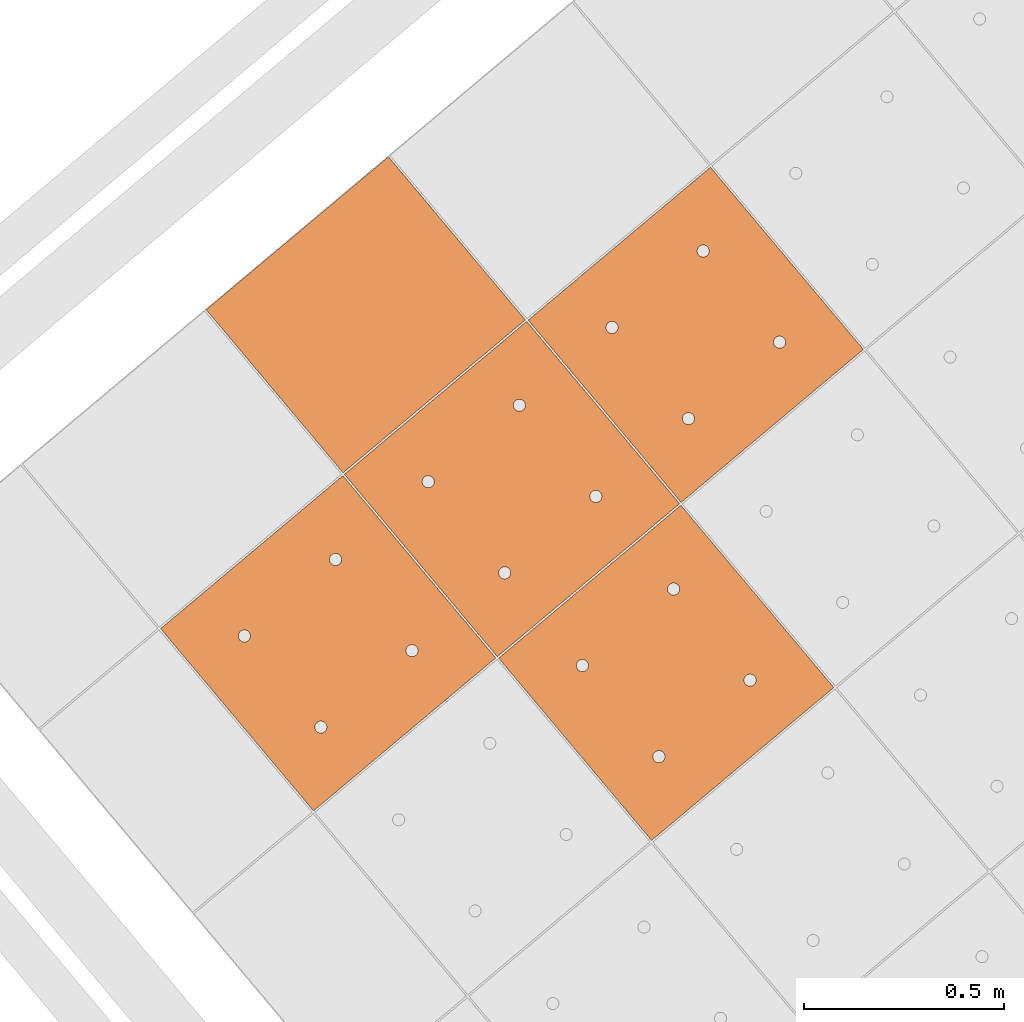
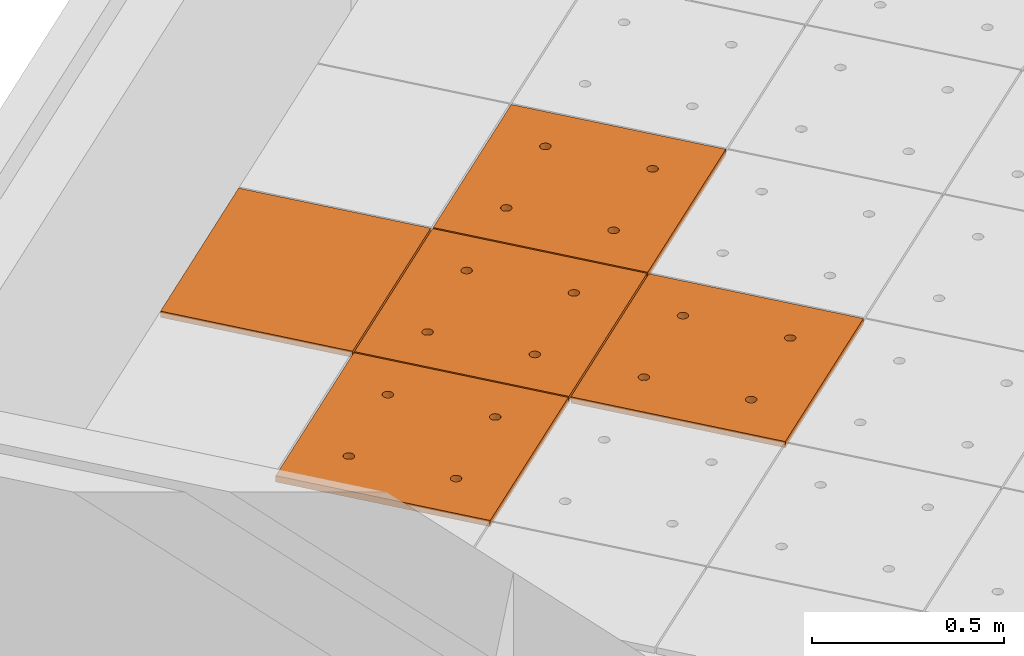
# One storey, part 152 of 338: 5 proxies, 1 element without a shape of its own.
"""IFC2X3 building model written with IfcOpenShell, lengths in millimetres."""

from ifc_helpers import new_model, entity, si_unit, converted_unit, derived_unit, money_unit, direction, frame, origin_with_axes, place, context, subcontext, project, spatial, faceted_brep, source, transform, mapped, material, type_object, type_shapes, element, aggregate, save


model = new_model("IFC2X3")

# Units and contexts
model_context = context("Model", 3, precision=0.01, world=origin_with_axes(), true_north=direction((0.0, 1.0)))
plan_context = context("Plan", 3, precision=0.01, world=origin_with_axes(), true_north=direction((0.0, 1.0)))
body_context = subcontext(model_context, "Body", "Model", "MODEL_VIEW")
ifc_project = project(units=[si_unit("LENGTHUNIT", "METRE", prefix="MILLI"), si_unit("AREAUNIT", "SQUARE_METRE"), si_unit("VOLUMEUNIT", "CUBIC_METRE"), converted_unit("PLANEANGLEUNIT", "DEGREE", entity("IfcPlaneAngleMeasure", 0.0174532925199), si_unit("PLANEANGLEUNIT", "RADIAN"), dimensions=[0, 0, 0, 0, 0, 0, 0]), money_unit("EUR"), converted_unit("TIMEUNIT", "Year", entity("IfcTimeMeasure", 31556926.0), si_unit("TIMEUNIT", "SECOND"), dimensions=[0, 0, 1, 0, 0, 0, 0]), si_unit("MASSUNIT", "GRAM", prefix="KILO"), si_unit("THERMODYNAMICTEMPERATUREUNIT", "DEGREE_CELSIUS"), si_unit("LUMINOUSINTENSITYUNIT", "LUMEN"), si_unit("ENERGYUNIT", "JOULE", prefix="MEGA"), derived_unit("THERMALCONDUCTANCEUNIT", [(si_unit("POWERUNIT", "WATT"), 1), (si_unit("LENGTHUNIT", "METRE"), -1), (si_unit("THERMODYNAMICTEMPERATUREUNIT", "KELVIN"), -1)]), derived_unit("SPECIFICHEATCAPACITYUNIT", [(si_unit("ENERGYUNIT", "JOULE"), 1), (si_unit("MASSUNIT", "GRAM", prefix="KILO"), -1), (si_unit("THERMODYNAMICTEMPERATUREUNIT", "KELVIN"), -1)]), derived_unit("MASSDENSITYUNIT", [(si_unit("MASSUNIT", "GRAM", prefix="KILO"), 1), (si_unit("VOLUMEUNIT", "CUBIC_METRE"), -1)])], contexts=[model_context, plan_context])

# Site, building, storey
site_placement = place(None, origin_with_axes())
site = spatial("IfcSite", under=ifc_project, at=site_placement, Name="Fortuinstraat Woensdrecht", CompositionType="ELEMENT")
building_placement = place(site_placement, origin_with_axes())
building = spatial("IfcBuilding", under=site, at=building_placement, Name="IKC Fortuna", CompositionType="ELEMENT")
storey_placement = place(building_placement, origin_with_axes())
storey = spatial("IfcBuildingStorey", under=building, at=storey_placement, Name="00 begane grond", CompositionType="ELEMENT", Elevation=0.0)

# Covering, proxies
covering_type = type_object("IfcCoveringType", Name="Curtain Wall Type", PredefinedType="CEILING")
covering_placement = place(storey_placement, frame((9775.85169731, -1002.28242867, 4660.0), z_axis=(0.0, 0.0, 1.0), x_axis=(1.0, 0.0, 0.0)))
covering = element("IfcCovering", 1, at=covering_placement, inside=storey, type_object=covering_type, Name="45_Plafondafwerking_P01", PredefinedType="CEILING")
ifc_material = material(Name="Gipsplaat")
building_element_proxy_type_1 = type_object("IfcBuildingElementProxyType", Name="Main Panel 600 x 600 x 20", PredefinedType="NOTDEFINED")
shared_shape_1 = source(origin_with_axes(), body_context, "Body", "Brep", [
    faceted_brep([(2.49999999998, 2.49999999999, -10.0), (300.0, 2.49999999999, -10.0), (300.0, 2.49999999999, 10.0), (2.49999999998, 2.49999999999, 10.0), (2.49999999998, 300.0, -10.0), (2.49999999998, 597.5, -10.0), (300.0, 597.5, -10.0), (597.5, 597.5, -10.0), (597.5, 300.0, -10.0), (597.5, 2.49999999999, -10.0), (166.25, 450.06232995, -10.0), (165.79423259, 452.64711538, -10.0), (164.896546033, 455.11348892, -10.0), (163.58421608, 457.38651108, -10.0), (161.897117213, 459.39711721, -10.0), (159.886511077, 461.08421608, -10.0), (157.613488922, 462.39654603, -10.0), (155.147115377, 463.29423259, -10.0), (152.562329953, 463.75, -10.0), (149.937670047, 463.75, -10.0), (147.352884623, 463.29423259, -10.0), (144.886511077, 462.39654603, -10.0), (142.613488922, 461.08421608, -10.0), (140.602882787, 459.39711721, -10.0), (138.91578392, 457.38651108, -10.0), (137.603453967, 455.11348892, -10.0), (136.705767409, 452.64711538, -10.0), (136.25, 450.06232995, -10.0), (136.25, 448.75, -10.0), (136.25, 447.43767005, -10.0), (136.705767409, 444.85288462, -10.0), (137.603453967, 442.38651108, -10.0), (138.91578392, 440.11348892, -10.0), (140.602882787, 438.10288279, -10.0), (142.613488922, 436.41578392, -10.0), (144.886511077, 435.10345397, -10.0), (147.352884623, 434.20576741, -10.0), (149.937670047, 433.75, -10.0), (152.562329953, 433.75, -10.0), (155.147115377, 434.20576741, -10.0), (157.613488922, 435.10345397, -10.0), (159.886511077, 436.41578392, -10.0), (161.897117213, 438.10288279, -10.0), (163.58421608, 440.11348892, -10.0), (164.896546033, 442.38651108, -10.0), (165.79423259, 444.85288462, -10.0), (166.25, 447.43767005, -10.0), (463.75, 450.06232995, -10.0), (463.29423259, 452.64711538, -10.0), (462.396546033, 455.11348892, -10.0), (461.08421608, 457.38651108, -10.0), (459.397117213, 459.39711721, -10.0), (457.386511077, 461.08421608, -10.0), (455.113488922, 462.39654603, -10.0), (452.647115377, 463.29423259, -10.0), (450.062329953, 463.75, -10.0), (447.437670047, 463.75, -10.0), (444.852884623, 463.29423259, -10.0), (442.386511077, 462.39654603, -10.0), (440.113488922, 461.08421608, -10.0), (438.102882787, 459.39711721, -10.0), (436.41578392, 457.38651108, -10.0), (435.103453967, 455.11348892, -10.0), (434.205767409, 452.64711538, -10.0), (433.75, 450.06232995, -10.0), (433.75, 448.75, -10.0), (433.75, 447.43767005, -10.0), (434.205767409, 444.85288462, -10.0), (435.103453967, 442.38651108, -10.0), (436.41578392, 440.11348892, -10.0), (438.102882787, 438.10288279, -10.0), (440.113488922, 436.41578392, -10.0), (442.386511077, 435.10345397, -10.0), (444.852884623, 434.20576741, -10.0), (447.437670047, 433.75, -10.0), (450.062329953, 433.75, -10.0), (452.647115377, 434.20576741, -10.0), (455.113488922, 435.10345397, -10.0), (457.386511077, 436.41578392, -10.0), (459.397117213, 438.10288279, -10.0), (461.08421608, 440.11348892, -10.0), (462.396546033, 442.38651108, -10.0), (463.29423259, 444.85288462, -10.0), (463.75, 447.43767005, -10.0), (463.75, 152.56232995, -10.0), (463.29423259, 155.14711538, -10.0), (462.396546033, 157.61348892, -10.0), (461.08421608, 159.88651108, -10.0), (459.397117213, 161.89711721, -10.0), (457.386511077, 163.58421608, -10.0), (455.113488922, 164.89654603, -10.0), (452.647115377, 165.79423259, -10.0), (450.062329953, 166.25, -10.0), (447.437670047, 166.25, -10.0), (444.852884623, 165.79423259, -10.0), (442.386511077, 164.89654603, -10.0), (440.113488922, 163.58421608, -10.0), (438.102882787, 161.89711721, -10.0), (436.41578392, 159.88651108, -10.0), (435.103453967, 157.61348892, -10.0), (434.205767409, 155.14711538, -10.0), (433.75, 152.56232995, -10.0), (433.75, 151.25, -10.0), (433.75, 149.93767005, -10.0), (434.205767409, 147.35288462, -10.0), (435.103453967, 144.88651108, -10.0), (436.41578392, 142.61348892, -10.0), (438.102882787, 140.60288279, -10.0), (440.113488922, 138.91578392, -10.0), (442.386511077, 137.60345397, -10.0), (444.852884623, 136.70576741, -10.0), (447.437670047, 136.25, -10.0), (450.062329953, 136.25, -10.0), (452.647115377, 136.70576741, -10.0), (455.113488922, 137.60345397, -10.0), (457.386511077, 138.91578392, -10.0), (459.397117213, 140.60288279, -10.0), (461.08421608, 142.61348892, -10.0), (462.396546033, 144.88651108, -10.0), (463.29423259, 147.35288462, -10.0), (463.75, 149.93767005, -10.0), (166.25, 152.56232995, -10.0), (165.79423259, 155.14711538, -10.0), (164.896546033, 157.61348892, -10.0), (163.58421608, 159.88651108, -10.0), (161.897117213, 161.89711721, -10.0), (159.886511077, 163.58421608, -10.0), (157.613488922, 164.89654603, -10.0), (155.147115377, 165.79423259, -10.0), (152.562329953, 166.25, -10.0), (149.937670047, 166.25, -10.0), (147.352884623, 165.79423259, -10.0), (144.886511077, 164.89654603, -10.0), (142.613488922, 163.58421608, -10.0), (140.602882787, 161.89711721, -10.0), (138.91578392, 159.88651108, -10.0), (137.603453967, 157.61348892, -10.0), (136.705767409, 155.14711538, -10.0), (136.25, 152.56232995, -10.0), (136.25, 151.25, -10.0), (136.25, 149.93767005, -10.0), (136.705767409, 147.35288462, -10.0), (137.603453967, 144.88651108, -10.0), (138.91578392, 142.61348892, -10.0), (140.602882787, 140.60288279, -10.0), (142.613488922, 138.91578392, -10.0), (144.886511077, 137.60345397, -10.0), (147.352884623, 136.70576741, -10.0), (149.937670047, 136.25, -10.0), (152.562329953, 136.25, -10.0), (155.147115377, 136.70576741, -10.0), (157.613488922, 137.60345397, -10.0), (159.886511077, 138.91578392, -10.0), (161.897117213, 140.60288279, -10.0), (163.58421608, 142.61348892, -10.0), (164.896546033, 144.88651108, -10.0), (165.79423259, 147.35288462, -10.0), (166.25, 149.93767005, -10.0), (597.5, 2.49999999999, 10.0), (597.5, 300.0, 10.0), (597.5, 597.5, 10.0), (300.0, 597.5, 10.0), (2.49999999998, 597.5, 10.0), (2.49999999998, 300.0, 10.0), (166.25, 450.06232995, 10.0), (166.25, 447.43767005, 10.0), (165.79423259, 444.85288462, 10.0), (164.896546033, 442.38651108, 10.0), (163.58421608, 440.11348892, 10.0), (161.897117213, 438.10288279, 10.0), (159.886511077, 436.41578392, 10.0), (157.613488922, 435.10345397, 10.0), (155.147115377, 434.20576741, 10.0), (152.562329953, 433.75, 10.0), (149.937670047, 433.75, 10.0), (147.352884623, 434.20576741, 10.0), (144.886511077, 435.10345397, 10.0), (142.613488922, 436.41578392, 10.0), (140.602882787, 438.10288279, 10.0), (138.91578392, 440.11348892, 10.0), (137.603453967, 442.38651108, 10.0), (136.705767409, 444.85288462, 10.0), (136.25, 447.43767005, 10.0), (136.25, 448.75, 10.0), (136.25, 450.06232995, 10.0), (136.705767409, 452.64711538, 10.0), (137.603453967, 455.11348892, 10.0), (138.91578392, 457.38651108, 10.0), (140.602882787, 459.39711721, 10.0), (142.613488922, 461.08421608, 10.0), (144.886511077, 462.39654603, 10.0), (147.352884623, 463.29423259, 10.0), (149.937670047, 463.75, 10.0), (152.562329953, 463.75, 10.0), (155.147115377, 463.29423259, 10.0), (157.613488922, 462.39654603, 10.0), (159.886511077, 461.08421608, 10.0), (161.897117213, 459.39711721, 10.0), (163.58421608, 457.38651108, 10.0), (164.896546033, 455.11348892, 10.0), (165.79423259, 452.64711538, 10.0), (463.75, 450.06232995, 10.0), (463.75, 447.43767005, 10.0), (463.29423259, 444.85288462, 10.0), (462.396546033, 442.38651108, 10.0), (461.08421608, 440.11348892, 10.0), (459.397117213, 438.10288279, 10.0), (457.386511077, 436.41578392, 10.0), (455.113488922, 435.10345397, 10.0), (452.647115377, 434.20576741, 10.0), (450.062329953, 433.75, 10.0), (447.437670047, 433.75, 10.0), (444.852884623, 434.20576741, 10.0), (442.386511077, 435.10345397, 10.0), (440.113488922, 436.41578392, 10.0), (438.102882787, 438.10288279, 10.0), (436.41578392, 440.11348892, 10.0), (435.103453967, 442.38651108, 10.0), (434.205767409, 444.85288462, 10.0), (433.75, 447.43767005, 10.0), (433.75, 448.75, 10.0), (433.75, 450.06232995, 10.0), (434.205767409, 452.64711538, 10.0), (435.103453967, 455.11348892, 10.0), (436.41578392, 457.38651108, 10.0), (438.102882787, 459.39711721, 10.0), (440.113488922, 461.08421608, 10.0), (442.386511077, 462.39654603, 10.0), (444.852884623, 463.29423259, 10.0), (447.437670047, 463.75, 10.0), (450.062329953, 463.75, 10.0), (452.647115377, 463.29423259, 10.0), (455.113488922, 462.39654603, 10.0), (457.386511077, 461.08421608, 10.0), (459.397117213, 459.39711721, 10.0), (461.08421608, 457.38651108, 10.0), (462.396546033, 455.11348892, 10.0), (463.29423259, 452.64711538, 10.0), (463.75, 152.56232995, 10.0), (463.75, 149.93767005, 10.0), (463.29423259, 147.35288462, 10.0), (462.396546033, 144.88651108, 10.0), (461.08421608, 142.61348892, 10.0), (459.397117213, 140.60288279, 10.0), (457.386511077, 138.91578392, 10.0), (455.113488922, 137.60345397, 10.0), (452.647115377, 136.70576741, 10.0), (450.062329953, 136.25, 10.0), (447.437670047, 136.25, 10.0), (444.852884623, 136.70576741, 10.0), (442.386511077, 137.60345397, 10.0), (440.113488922, 138.91578392, 10.0), (438.102882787, 140.60288279, 10.0), (436.41578392, 142.61348892, 10.0), (435.103453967, 144.88651108, 10.0), (434.205767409, 147.35288462, 10.0), (433.75, 149.93767005, 10.0), (433.75, 151.25, 10.0), (433.75, 152.56232995, 10.0), (434.205767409, 155.14711538, 10.0), (435.103453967, 157.61348892, 10.0), (436.41578392, 159.88651108, 10.0), (438.102882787, 161.89711721, 10.0), (440.113488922, 163.58421608, 10.0), (442.386511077, 164.89654603, 10.0), (444.852884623, 165.79423259, 10.0), (447.437670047, 166.25, 10.0), (450.062329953, 166.25, 10.0), (452.647115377, 165.79423259, 10.0), (455.113488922, 164.89654603, 10.0), (457.386511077, 163.58421608, 10.0), (459.397117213, 161.89711721, 10.0), (461.08421608, 159.88651108, 10.0), (462.396546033, 157.61348892, 10.0), (463.29423259, 155.14711538, 10.0), (166.25, 152.56232995, 10.0), (166.25, 149.93767005, 10.0), (165.79423259, 147.35288462, 10.0), (164.896546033, 144.88651108, 10.0), (163.58421608, 142.61348892, 10.0), (161.897117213, 140.60288279, 10.0), (159.886511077, 138.91578392, 10.0), (157.613488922, 137.60345397, 10.0), (155.147115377, 136.70576741, 10.0), (152.562329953, 136.25, 10.0), (149.937670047, 136.25, 10.0), (147.352884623, 136.70576741, 10.0), (144.886511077, 137.60345397, 10.0), (142.613488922, 138.91578392, 10.0), (140.602882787, 140.60288279, 10.0), (138.91578392, 142.61348892, 10.0), (137.603453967, 144.88651108, 10.0), (136.705767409, 147.35288462, 10.0), (136.25, 149.93767005, 10.0), (136.25, 151.25, 10.0), (136.25, 152.56232995, 10.0), (136.705767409, 155.14711538, 10.0), (137.603453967, 157.61348892, 10.0), (138.91578392, 159.88651108, 10.0), (140.602882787, 161.89711721, 10.0), (142.613488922, 163.58421608, 10.0), (144.886511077, 164.89654603, 10.0), (147.352884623, 165.79423259, 10.0), (149.937670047, 166.25, 10.0), (152.562329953, 166.25, 10.0), (155.147115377, 165.79423259, 10.0), (157.613488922, 164.89654603, 10.0), (159.886511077, 163.58421608, 10.0), (161.897117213, 161.89711721, 10.0), (163.58421608, 159.88651108, 10.0), (164.896546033, 157.61348892, 10.0), (165.79423259, 155.14711538, 10.0)], [[[0, 1, 2, 3]], [[0, 4, 5, 6, 7, 8, 9, 1], [10, 11, 12, 13, 14, 15, 16, 17, 18, 19, 20, 21, 22, 23, 24, 25, 26, 27, 28, 29, 30, 31, 32, 33, 34, 35, 36, 37, 38, 39, 40, 41, 42, 43, 44, 45, 46], [47, 48, 49, 50, 51, 52, 53, 54, 55, 56, 57, 58, 59, 60, 61, 62, 63, 64, 65, 66, 67, 68, 69, 70, 71, 72, 73, 74, 75, 76, 77, 78, 79, 80, 81, 82, 83], [84, 85, 86, 87, 88, 89, 90, 91, 92, 93, 94, 95, 96, 97, 98, 99, 100, 101, 102, 103, 104, 105, 106, 107, 108, 109, 110, 111, 112, 113, 114, 115, 116, 117, 118, 119, 120], [121, 122, 123, 124, 125, 126, 127, 128, 129, 130, 131, 132, 133, 134, 135, 136, 137, 138, 139, 140, 141, 142, 143, 144, 145, 146, 147, 148, 149, 150, 151, 152, 153, 154, 155, 156, 157]], [[1, 9, 158, 2]], [[3, 2, 158, 159, 160, 161, 162, 163], [164, 165, 166, 167, 168, 169, 170, 171, 172, 173, 174, 175, 176, 177, 178, 179, 180, 181, 182, 183, 184, 185, 186, 187, 188, 189, 190, 191, 192, 193, 194, 195, 196, 197, 198, 199, 200], [201, 202, 203, 204, 205, 206, 207, 208, 209, 210, 211, 212, 213, 214, 215, 216, 217, 218, 219, 220, 221, 222, 223, 224, 225, 226, 227, 228, 229, 230, 231, 232, 233, 234, 235, 236, 237], [238, 239, 240, 241, 242, 243, 244, 245, 246, 247, 248, 249, 250, 251, 252, 253, 254, 255, 256, 257, 258, 259, 260, 261, 262, 263, 264, 265, 266, 267, 268, 269, 270, 271, 272, 273, 274], [275, 276, 277, 278, 279, 280, 281, 282, 283, 284, 285, 286, 287, 288, 289, 290, 291, 292, 293, 294, 295, 296, 297, 298, 299, 300, 301, 302, 303, 304, 305, 306, 307, 308, 309, 310, 311]], [[4, 0, 3, 163]], [[5, 4, 163, 162]], [[6, 5, 162, 161]], [[7, 6, 161, 160]], [[8, 7, 160, 159]], [[9, 8, 159, 158]], [[11, 10, 164, 200]], [[12, 11, 200, 199]], [[13, 12, 199, 198]], [[14, 13, 198, 197]], [[15, 14, 197, 196]], [[16, 15, 196, 195]], [[17, 16, 195, 194]], [[18, 17, 194, 193]], [[19, 18, 193, 192]], [[20, 19, 192, 191]], [[21, 20, 191, 190]], [[22, 21, 190, 189]], [[23, 22, 189, 188]], [[24, 23, 188, 187]], [[25, 24, 187, 186]], [[26, 25, 186, 185]], [[27, 26, 185, 184]], [[28, 27, 184, 183]], [[29, 28, 183, 182]], [[30, 29, 182, 181]], [[31, 30, 181, 180]], [[32, 31, 180, 179]], [[33, 32, 179, 178]], [[34, 33, 178, 177]], [[35, 34, 177, 176]], [[36, 35, 176, 175]], [[37, 36, 175, 174]], [[38, 37, 174, 173]], [[39, 38, 173, 172]], [[40, 39, 172, 171]], [[41, 40, 171, 170]], [[42, 41, 170, 169]], [[43, 42, 169, 168]], [[44, 43, 168, 167]], [[45, 44, 167, 166]], [[46, 45, 166, 165]], [[10, 46, 165, 164]], [[48, 47, 201, 237]], [[49, 48, 237, 236]], [[50, 49, 236, 235]], [[51, 50, 235, 234]], [[52, 51, 234, 233]], [[53, 52, 233, 232]], [[54, 53, 232, 231]], [[55, 54, 231, 230]], [[56, 55, 230, 229]], [[57, 56, 229, 228]], [[58, 57, 228, 227]], [[59, 58, 227, 226]], [[60, 59, 226, 225]], [[61, 60, 225, 224]], [[62, 61, 224, 223]], [[63, 62, 223, 222]], [[64, 63, 222, 221]], [[65, 64, 221, 220]], [[66, 65, 220, 219]], [[67, 66, 219, 218]], [[68, 67, 218, 217]], [[69, 68, 217, 216]], [[70, 69, 216, 215]], [[71, 70, 215, 214]], [[72, 71, 214, 213]], [[73, 72, 213, 212]], [[74, 73, 212, 211]], [[75, 74, 211, 210]], [[76, 75, 210, 209]], [[77, 76, 209, 208]], [[78, 77, 208, 207]], [[79, 78, 207, 206]], [[80, 79, 206, 205]], [[81, 80, 205, 204]], [[82, 81, 204, 203]], [[83, 82, 203, 202]], [[47, 83, 202, 201]], [[85, 84, 238, 274]], [[86, 85, 274, 273]], [[87, 86, 273, 272]], [[88, 87, 272, 271]], [[89, 88, 271, 270]], [[90, 89, 270, 269]], [[91, 90, 269, 268]], [[92, 91, 268, 267]], [[93, 92, 267, 266]], [[94, 93, 266, 265]], [[95, 94, 265, 264]], [[96, 95, 264, 263]], [[97, 96, 263, 262]], [[98, 97, 262, 261]], [[99, 98, 261, 260]], [[100, 99, 260, 259]], [[101, 100, 259, 258]], [[102, 101, 258, 257]], [[103, 102, 257, 256]], [[104, 103, 256, 255]], [[105, 104, 255, 254]], [[106, 105, 254, 253]], [[107, 106, 253, 252]], [[108, 107, 252, 251]], [[109, 108, 251, 250]], [[110, 109, 250, 249]], [[111, 110, 249, 248]], [[112, 111, 248, 247]], [[113, 112, 247, 246]], [[114, 113, 246, 245]], [[115, 114, 245, 244]], [[116, 115, 244, 243]], [[117, 116, 243, 242]], [[118, 117, 242, 241]], [[119, 118, 241, 240]], [[120, 119, 240, 239]], [[84, 120, 239, 238]], [[122, 121, 275, 311]], [[123, 122, 311, 310]], [[124, 123, 310, 309]], [[125, 124, 309, 308]], [[126, 125, 308, 307]], [[127, 126, 307, 306]], [[128, 127, 306, 305]], [[129, 128, 305, 304]], [[130, 129, 304, 303]], [[131, 130, 303, 302]], [[132, 131, 302, 301]], [[133, 132, 301, 300]], [[134, 133, 300, 299]], [[135, 134, 299, 298]], [[136, 135, 298, 297]], [[137, 136, 297, 296]], [[138, 137, 296, 295]], [[139, 138, 295, 294]], [[140, 139, 294, 293]], [[141, 140, 293, 292]], [[142, 141, 292, 291]], [[143, 142, 291, 290]], [[144, 143, 290, 289]], [[145, 144, 289, 288]], [[146, 145, 288, 287]], [[147, 146, 287, 286]], [[148, 147, 286, 285]], [[149, 148, 285, 284]], [[150, 149, 284, 283]], [[151, 150, 283, 282]], [[152, 151, 282, 281]], [[153, 152, 281, 280]], [[154, 153, 280, 279]], [[155, 154, 279, 278]], [[156, 155, 278, 277]], [[157, 156, 277, 276]], [[121, 157, 276, 275]]]),
])
type_shapes(building_element_proxy_type_1, [shared_shape_1])
proxy_1_placement = place(covering_placement, frame((-8452.99251894, 739.538871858, 2.16715534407e-10), z_axis=(0.0, 0.0, 1.0), x_axis=(1.0, 0.0, 0.0)))
proxy_1 = element("IfcBuildingElementProxy", 2, at=proxy_1_placement, type_object=building_element_proxy_type_1, material=ifc_material, Name="__600x604 Rockfon Krios", context=body_context, shape_type="MappedRepresentation", body=[
    mapped(shared_shape_1, transform((36.9769427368, 422.649625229, 0.0), x_axis=(-0.766044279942, -0.642787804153, 0.0), y_axis=(0.642787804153, -0.766044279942, 0.0), z_axis=(0.0, 0.0, 1.0))),
])
proxy_2_placement = place(covering_placement, frame((-7607.69326848, 665.584986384, 1.96287430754e-10), z_axis=(0.0, 0.0, 1.0), x_axis=(1.0, 0.0, 0.0)))
proxy_2 = element("IfcBuildingElementProxy", 3, at=proxy_2_placement, type_object=building_element_proxy_type_1, material=ifc_material, Name="__600x605 Rockfon Krios", context=body_context, shape_type="MappedRepresentation", body=[
    mapped(shared_shape_1, transform((36.9769427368, 422.649625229, 0.0), x_axis=(-0.766044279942, -0.642787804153, 0.0), y_axis=(0.642787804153, -0.766044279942, 0.0), z_axis=(0.0, 0.0, 1.0))),
])
proxy_3_placement = place(covering_placement, frame((-7533.73938301, 1510.88423684, 1.7674750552e-10), z_axis=(0.0, 0.0, 1.0), x_axis=(1.0, 0.0, 0.0)))
proxy_3 = element("IfcBuildingElementProxy", 4, at=proxy_3_placement, type_object=building_element_proxy_type_1, material=ifc_material, Name="__600x610 Rockfon Krios", context=body_context, shape_type="MappedRepresentation", body=[
    mapped(shared_shape_1, transform((36.9769427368, 422.649625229, 0.0), x_axis=(-0.766044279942, -0.642787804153, 0.0), y_axis=(0.642787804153, -0.766044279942, 0.0), z_axis=(0.0, 0.0, 1.0))),
])
proxy_4_placement = place(covering_placement, frame((-7993.36595097, 1125.21155435, 1.96287430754e-10), z_axis=(0.0, 0.0, 1.0), x_axis=(1.0, 0.0, 0.0)))
proxy_4 = element("IfcBuildingElementProxy", 5, at=proxy_4_placement, type_object=building_element_proxy_type_1, material=ifc_material, Name="__600x615 Rockfon Krios", context=body_context, shape_type="MappedRepresentation", body=[
    mapped(shared_shape_1, transform((36.9769427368, 422.649625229, 0.0), x_axis=(-0.766044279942, -0.642787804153, 0.0), y_axis=(0.642787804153, -0.766044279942, 0.0), z_axis=(0.0, 0.0, 1.0))),
])
building_element_proxy_type_2 = type_object("IfcBuildingElementProxyType", Name="600 x 538 x 20", PredefinedType="NOTDEFINED")
shared_shape_2 = source(origin_with_axes(), body_context, "Body", "Brep", [
    faceted_brep([(2.50000143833, 64.9091281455, -10.0), (597.499987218, 64.9091323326, -10.0), (597.499987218, 64.9091323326, 10.0), (2.50000143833, 64.9091281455, 10.0), (2.49999424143, 597.500000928, -10.0), (597.500006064, 597.499998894, -10.0), (597.500006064, 597.499998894, 10.0), (2.49999424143, 597.500000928, 10.0)], [[[0, 1, 2, 3]], [[0, 4, 5, 1]], [[1, 5, 6, 2]], [[3, 2, 6, 7]], [[4, 0, 3, 7]], [[5, 4, 7, 6]]]),
])
type_shapes(building_element_proxy_type_2, [shared_shape_2])
proxy_5_placement = place(covering_placement, frame((-8358.98071847, 1560.93404238, 1.96287430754e-10), z_axis=(0.0, 0.0, 1.0), x_axis=(1.0, 0.0, 0.0)))
proxy_5 = element("IfcBuildingElementProxy", 6, at=proxy_5_placement, type_object=building_element_proxy_type_2, material=ifc_material, Name="__600x649 Rockfon Krios", context=body_context, shape_type="MappedRepresentation", body=[
    mapped(shared_shape_2, transform((16.9190277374, 446.553705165, 0.0), x_axis=(-0.766044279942, -0.642787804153, 0.0), y_axis=(0.642787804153, -0.766044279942, 0.0), z_axis=(0.0, 0.0, 1.0))),
])
aggregate(covering, [proxy_1, proxy_2, proxy_3, proxy_4, proxy_5])

save(model, "model.ifc")
